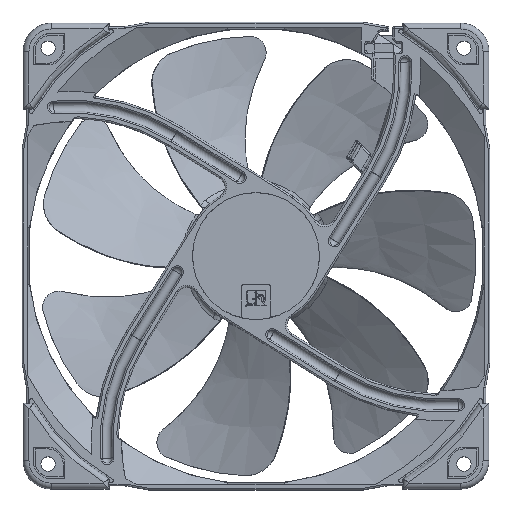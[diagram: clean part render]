
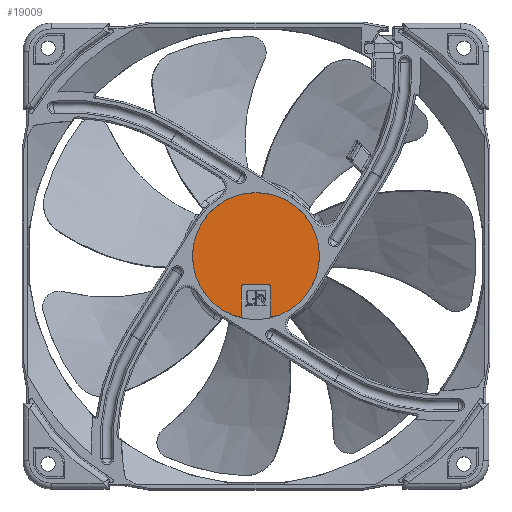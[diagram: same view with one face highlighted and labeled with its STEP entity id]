
A CAD part, top view. The second image highlights one B-rep face of the part: STEP entity #19009.
In plain terms, the highlighted planar face has unit normal (0, 0, 1).
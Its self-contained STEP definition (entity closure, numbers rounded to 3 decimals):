
#742=PLANE('',#21368);
#1720=CIRCLE('',#21351,0.6);
#1721=CIRCLE('',#21352,0.6);
#1722=CIRCLE('',#21353,0.6);
#1724=CIRCLE('',#21355,0.6);
#1734=CIRCLE('',#21366,19.);
#7907=ORIENTED_EDGE('',*,*,#10894,.F.);
#7908=ORIENTED_EDGE('',*,*,#10893,.F.);
#7909=ORIENTED_EDGE('',*,*,#10900,.F.);
#7910=ORIENTED_EDGE('',*,*,#10919,.F.);
#7911=ORIENTED_EDGE('',*,*,#10898,.T.);
#7912=ORIENTED_EDGE('',*,*,#10897,.F.);
#7913=ORIENTED_EDGE('',*,*,#10896,.F.);
#7914=ORIENTED_EDGE('',*,*,#10895,.F.);
#10893=EDGE_CURVE('',#12758,#12759,#13870,.T.);
#10894=EDGE_CURVE('',#12759,#12760,#1720,.T.);
#10895=EDGE_CURVE('',#12760,#12761,#13871,.T.);
#10896=EDGE_CURVE('',#12761,#12762,#1721,.T.);
#10897=EDGE_CURVE('',#12762,#12763,#13872,.T.);
#10898=EDGE_CURVE('',#12764,#12763,#1722,.T.);
#10900=EDGE_CURVE('',#12765,#12758,#1724,.T.);
#10919=EDGE_CURVE('',#12764,#12765,#1734,.T.);
#12758=VERTEX_POINT('',#46945);
#12759=VERTEX_POINT('',#46946);
#12760=VERTEX_POINT('',#46948);
#12761=VERTEX_POINT('',#46950);
#12762=VERTEX_POINT('',#46952);
#12763=VERTEX_POINT('',#46954);
#12764=VERTEX_POINT('',#46956);
#12765=VERTEX_POINT('',#46958);
#13870=LINE('',#46944,#14981);
#13871=LINE('',#46949,#14982);
#13872=LINE('',#46953,#14983);
#14981=VECTOR('',#26088,1000.);
#14982=VECTOR('',#26091,1000.);
#14983=VECTOR('',#26094,1000.);
#16254=EDGE_LOOP('',(#7907,#7908,#7909,#7910,#7911,#7912,#7913,#7914));
#17483=FACE_BOUND('',#16254,.T.);
#19009=ADVANCED_FACE('',(#17483),#742,.F.);
#21351=AXIS2_PLACEMENT_3D('',#46947,#26089,#26090);
#21352=AXIS2_PLACEMENT_3D('',#46951,#26092,#26093);
#21353=AXIS2_PLACEMENT_3D('',#46955,#26095,#26096);
#21355=AXIS2_PLACEMENT_3D('',#46959,#26099,#26100);
#21366=AXIS2_PLACEMENT_3D('',#47005,#26129,#26130);
#21368=AXIS2_PLACEMENT_3D('',#47008,#26133,#26134);
#26088=DIRECTION('',(0.,-1.,0.));
#26089=DIRECTION('',(0.,0.,1.));
#26090=DIRECTION('',(1.,0.,0.));
#26091=DIRECTION('',(1.,0.,0.));
#26092=DIRECTION('',(0.,0.,1.));
#26093=DIRECTION('',(-1.,0.,0.));
#26094=DIRECTION('',(0.,1.,0.));
#26095=DIRECTION('',(0.,0.,-1.));
#26096=DIRECTION('',(-1.,0.,0.));
#26099=DIRECTION('',(0.,0.,1.));
#26100=DIRECTION('',(1.,0.,0.));
#26129=DIRECTION('',(0.,0.,-1.));
#26130=DIRECTION('',(1.,0.,0.));
#26133=DIRECTION('',(0.,0.,-1.));
#26134=DIRECTION('',(-1.,0.,0.));
#46944=CARTESIAN_POINT('',(-4.35,18.014,0.5));
#46945=CARTESIAN_POINT('',(-4.35,18.014,0.5));
#46946=CARTESIAN_POINT('',(-4.35,9.2,0.5));
#46947=CARTESIAN_POINT('',(-3.75,9.2,0.5));
#46948=CARTESIAN_POINT('',(-3.75,8.6,0.5));
#46949=CARTESIAN_POINT('',(-3.75,8.6,0.5));
#46950=CARTESIAN_POINT('',(3.75,8.6,0.5));
#46951=CARTESIAN_POINT('',(3.75,9.2,0.5));
#46952=CARTESIAN_POINT('',(4.35,9.2,0.5));
#46953=CARTESIAN_POINT('',(4.35,9.2,0.5));
#46954=CARTESIAN_POINT('',(4.35,18.014,0.5));
#46955=CARTESIAN_POINT('',(3.75,18.014,0.5));
#46956=CARTESIAN_POINT('',(3.872,18.601,0.5));
#46958=CARTESIAN_POINT('',(-3.872,18.601,0.5));
#46959=CARTESIAN_POINT('',(-3.75,18.014,0.5));
#47005=CARTESIAN_POINT('',(0.,0.,0.5));
#47008=CARTESIAN_POINT('',(0.,0.,0.5));
